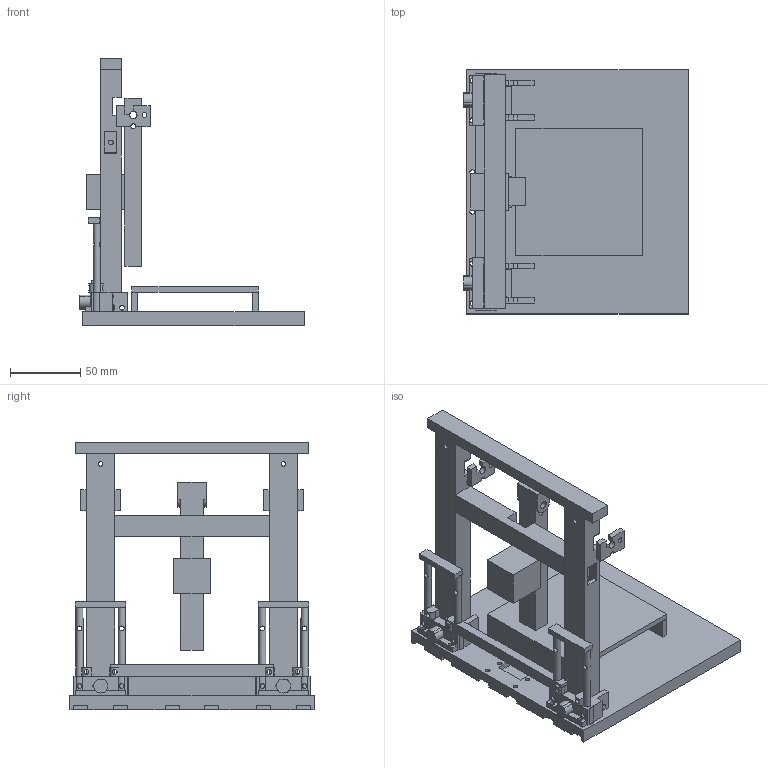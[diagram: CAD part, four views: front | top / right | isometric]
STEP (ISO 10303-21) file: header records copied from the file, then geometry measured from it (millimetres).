
FILE_DESCRIPTION(('Open CASCADE Model'),'2;1');
FILE_NAME('F09_asm_armfold','2026-11-15T22:32:14',('Author'),( 'Open CASCADE'),'Open CASCADE STEP processor 8.0','build123d', 'Unknown');
FILE_SCHEMA(('AUTOMOTIVE_DESIGN { 1 0 10303 214 1 1 1 1 }'));
Length unit declared in the file: millimetre
Products named in the file (10): F09_asm_armfold; BASE; BED; TWR_1; CAR_1; SYNC; COL_1; XBAR; BRG; ARM
Assembly tree (12 placements, depth 2):
  F09_asm_armfold
    BASE
    BED
    TWR_1  x2
    CAR_1  x2
    SYNC
    COL_1  x2
    XBAR
    BRG
    ARM
Bounding box: 159.5 x 173.5 x 190.5 mm (x, y, z)
Volume: 489199.8 mm3; surface area: 181632.6 mm2
Topology: 12 solids, 12 shells, 507 faces, 1412 edges, 928 vertices
Faces by surface type: plane 385, cylinder 122
Full cylindrical faces by diameter (mm): 3.4 x65, 5 x4, 5.3 x7, 5.4 x4
Entity records: 28284 total; most frequent: CARTESIAN_POINT 10136, DIRECTION 3086, LINE 1934, VECTOR 1934, ORIENTED_EDGE 1852, PCURVE 1852, DEFINITIONAL_REPRESENTATION 1852, EDGE_CURVE 926
